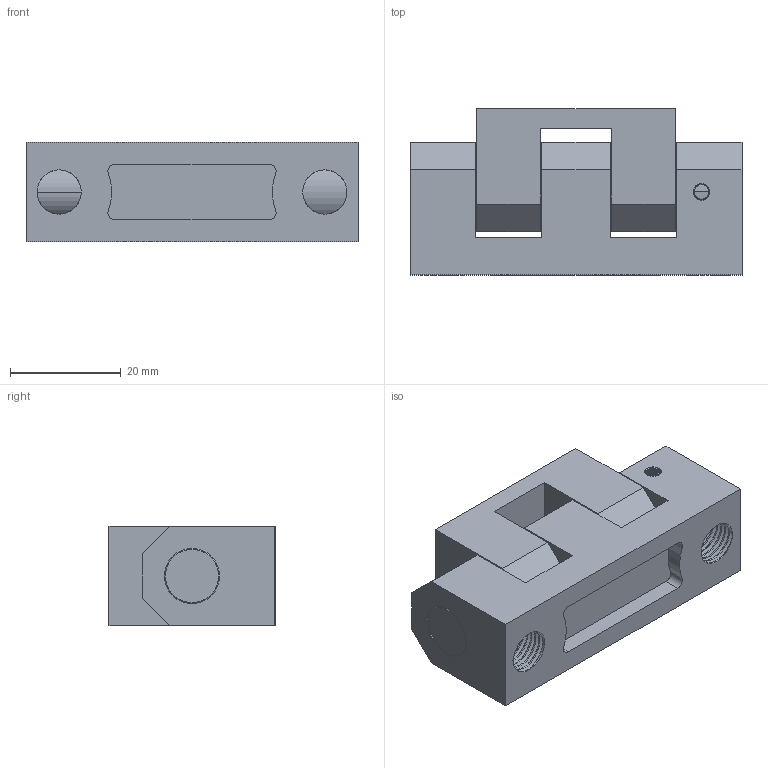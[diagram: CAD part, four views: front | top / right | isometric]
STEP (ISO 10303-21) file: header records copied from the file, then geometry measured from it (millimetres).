
FILE_DESCRIPTION (( 'STEP AP203' ), '1' );
FILE_NAME ('XG02-002-2.STEP', '2023-12-06T00:24:47', ( '' ), ( '' ), 'SwSTEP 2.0', 'SolidWorks 2020', '' );
FILE_SCHEMA (( 'CONFIG_CONTROL_DESIGN' ));
Length unit declared in the file: millimetre
Products named in the file (1): XG02-002-2
Bounding box: 60 x 30 x 18 mm (x, y, z)
Volume: 26059.3 mm3; surface area: 14210.2 mm2
Topology: 3 solids, 3 shells, 294 faces, 836 edges, 548 vertices
Faces by surface type: cylinder 195, plane 50, bspline 41, cone 8
Entity records: 33593 total; most frequent: CARTESIAN_POINT 27277, ORIENTED_EDGE 1664, DIRECTION 935, EDGE_CURVE 832, VERTEX_POINT 548, EDGE_LOOP 312, AXIS2_PLACEMENT_3D 312, LINE 311
